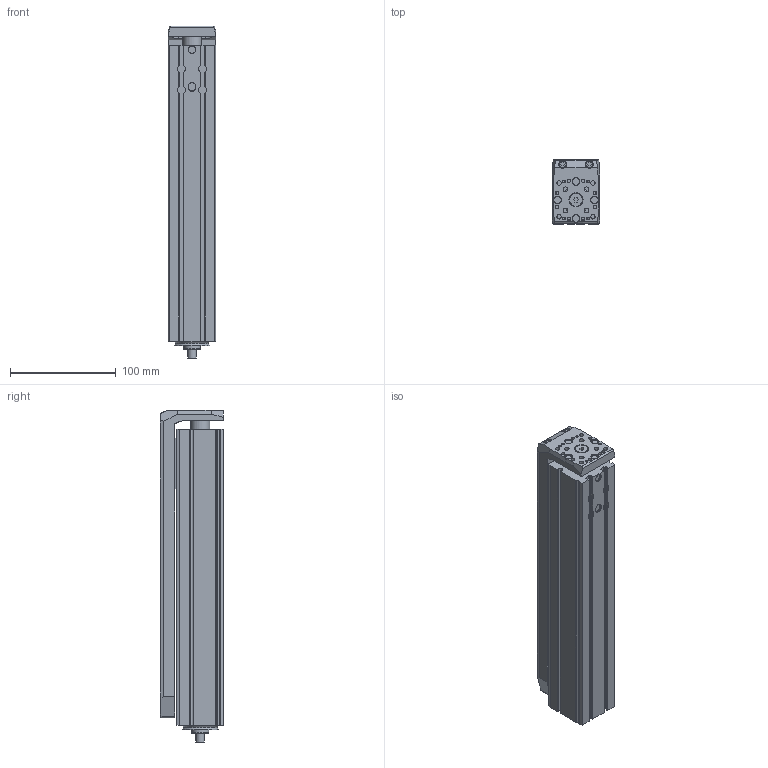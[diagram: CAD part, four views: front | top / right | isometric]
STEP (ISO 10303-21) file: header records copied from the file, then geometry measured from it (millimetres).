
FILE_DESCRIPTION(/* description */ ('STEP AP214'),/* implementation_level */ '2;1');
FILE_NAME(/* name */ 'MSCE 45 1010 200(0)',/* time_stamp */ '2023-10-09T11:32:22+02:00',/* author */ ('License CC BY-ND 4.0'),/* organization */ ('CADENAS'),/* preprocessor_version */ 'ST-DEVELOPER v19.3',/* originating_system */ 'PARTsolutions',/* authorisation */ ' ');
FILE_SCHEMA (('AUTOMOTIVE_DESIGN {1 0 10303 214 3 1 1}'));
Length unit declared in the file: millimetre
Products named in the file (3): MSCE 45 1010 200(0); 45(200)_prp; 45(200)_msce
Assembly tree (2 placements, depth 2):
  MSCE 45 1010 200(0)
    45(200)_prp
    45(200)_msce
Bounding box: 45 x 60.5 x 314 mm (x, y, z)
Volume: 569179 mm3; surface area: 164633.8 mm2
Topology: 2 solids, 2 shells, 436 faces, 1125 edges, 741 vertices
Faces by surface type: plane 208, cylinder 198, cone 23, torus 7
Full cylindrical faces by diameter (mm): 2.459 x8, 3.2 x8, 3.242 x8, 4 x2, 4.134 x4, 4.5 x4, 6 x8, 7 x7, 7.5 x4, 7.6 x2, 8 x1, 12 x1, 16 x1, 18 x2, 24 x1, 24.5 x1, 34 x2, 37.5 x2
Entity records: 14172 total; most frequent: CARTESIAN_POINT 2561, DIRECTION 2180, ORIENTED_EDGE 2034, EDGE_CURVE 1017, AXIS2_PLACEMENT_3D 825, VERTEX_POINT 729, FACE_BOUND 612, EDGE_LOOP 608
